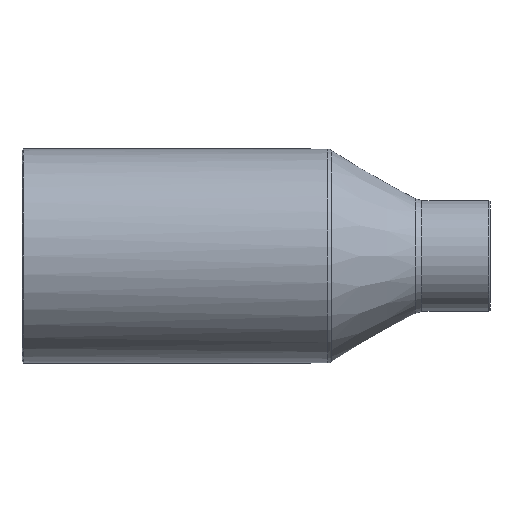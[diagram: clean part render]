
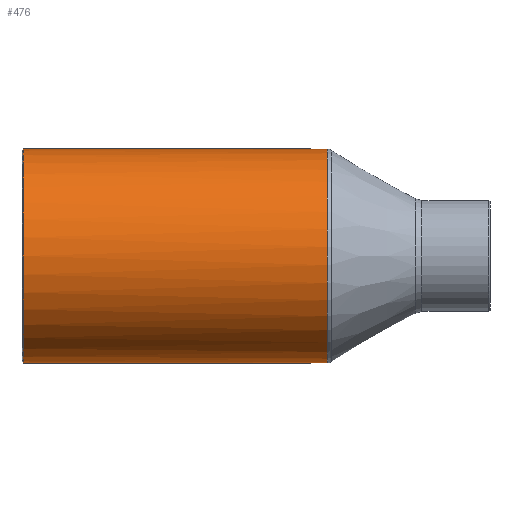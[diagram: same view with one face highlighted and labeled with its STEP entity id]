
A CAD part, front view. The second image highlights one B-rep face of the part: STEP entity #476.
In plain terms, the highlighted cylindrical face has radius 16.25 mm (diameter 32.5 mm), a full revolution.
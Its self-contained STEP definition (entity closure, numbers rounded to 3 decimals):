
#359=CARTESIAN_POINT('',(-33.,16.25,0.));
#360=VERTEX_POINT('',#359);
#361=CARTESIAN_POINT('',(-33.,0.0,0.0));
#362=DIRECTION('',(-1.0,0.0,0.0));
#363=DIRECTION('',(0.0,-1.0,0.0));
#364=AXIS2_PLACEMENT_3D('',#361,#362,#363);
#365=CIRCLE('',#364,16.25);
#366=EDGE_CURVE('',#360,#360,#365,.T.);
#391=CARTESIAN_POINT('',(2.3,0.0,0.0));
#392=DIRECTION('',(1.0,0.0,0.0));
#393=DIRECTION('',(0.0,1.0,0.0));
#394=AXIS2_PLACEMENT_3D('',#391,#392,#393);
#395=CYLINDRICAL_SURFACE('',#394,16.25);
#396=CARTESIAN_POINT('',(13.123,14.247,7.816));
#397=VERTEX_POINT('',#396);
#398=CARTESIAN_POINT('',(13.123,14.247,-7.816));
#399=VERTEX_POINT('',#398);
#400=CARTESIAN_POINT('',(13.123,0.0,0.0));
#401=DIRECTION('',(1.0,0.0,0.0));
#402=DIRECTION('',(0.0,-1.0,0.0));
#403=AXIS2_PLACEMENT_3D('',#400,#401,#402);
#404=CIRCLE('',#403,16.25);
#405=EDGE_CURVE('',#397,#399,#404,.T.);
#406=ORIENTED_EDGE('',*,*,#405,.F.);
#407=CARTESIAN_POINT('',(0.,9.295,13.329));
#408=VERTEX_POINT('',#407);
#409=CARTESIAN_POINT('',(0.,9.295,13.329));
#410=CARTESIAN_POINT('',(0.642,9.295,13.329));
#411=CARTESIAN_POINT('',(1.605,9.364,13.282));
#412=CARTESIAN_POINT('',(2.857,9.578,13.128));
#413=CARTESIAN_POINT('',(4.069,9.86,12.919));
#414=CARTESIAN_POINT('',(5.522,10.32,12.56));
#415=CARTESIAN_POINT('',(7.704,11.209,11.794));
#416=CARTESIAN_POINT('',(9.633,12.195,10.788));
#417=CARTESIAN_POINT('',(11.363,13.177,9.536));
#418=CARTESIAN_POINT('',(12.368,13.78,8.633));
#419=CARTESIAN_POINT('',(12.927,14.125,8.038));
#420=CARTESIAN_POINT('',(13.123,14.247,7.816));
#421=B_SPLINE_CURVE_WITH_KNOTS('',3,(#409,#410,#411,#412,#413,#414,#415,#416,#417,#418,#419,#420),.UNSPECIFIED.,.F.,.U.,(4,1,1,1,1,1,1,1,1,4),(-8.163,-8.017,-7.944,-7.872,-7.726,-7.58,-7.288,-7.143,-6.997,-6.914),.UNSPECIFIED.);
#422=EDGE_CURVE('',#408,#397,#421,.T.);
#423=ORIENTED_EDGE('',*,*,#422,.F.);
#424=CARTESIAN_POINT('',(13.123,14.247,-7.816));
#425=CARTESIAN_POINT('',(12.925,14.124,-8.041));
#426=CARTESIAN_POINT('',(12.48,13.848,-8.515));
#427=CARTESIAN_POINT('',(11.745,13.406,-9.197));
#428=CARTESIAN_POINT('',(10.926,12.928,-9.856));
#429=CARTESIAN_POINT('',(9.47,12.112,-10.874));
#430=CARTESIAN_POINT('',(7.846,11.283,-11.718));
#431=CARTESIAN_POINT('',(6.072,10.543,-12.37));
#432=CARTESIAN_POINT('',(4.57,9.999,-12.818));
#433=CARTESIAN_POINT('',(2.568,9.461,-13.215));
#434=CARTESIAN_POINT('',(0.428,9.253,-13.358));
#435=CARTESIAN_POINT('',(-1.29,9.336,-13.301));
#436=CARTESIAN_POINT('',(-2.55,9.511,-13.177));
#437=CARTESIAN_POINT('',(-3.778,9.786,-12.975));
#438=CARTESIAN_POINT('',(-5.336,10.251,-12.615));
#439=CARTESIAN_POINT('',(-7.164,10.975,-12.006));
#440=CARTESIAN_POINT('',(-8.831,11.786,-11.205));
#441=CARTESIAN_POINT('',(-10.054,12.439,-10.466));
#442=CARTESIAN_POINT('',(-11.219,13.092,-9.651));
#443=CARTESIAN_POINT('',(-12.286,13.728,-8.729));
#444=CARTESIAN_POINT('',(-13.236,14.316,-7.706));
#445=CARTESIAN_POINT('',(-14.246,14.955,-6.438));
#446=CARTESIAN_POINT('',(-15.138,15.539,-4.901));
#447=CARTESIAN_POINT('',(-15.854,16.017,-2.919));
#448=CARTESIAN_POINT('',(-16.217,16.262,-1.063));
#449=CARTESIAN_POINT('',(-16.217,16.261,0.711));
#450=CARTESIAN_POINT('',(-16.012,16.123,2.112));
#451=CARTESIAN_POINT('',(-15.679,15.9,3.477));
#452=CARTESIAN_POINT('',(-15.155,15.551,4.795));
#453=CARTESIAN_POINT('',(-14.47,15.103,6.021));
#454=CARTESIAN_POINT('',(-13.694,14.604,7.174));
#455=CARTESIAN_POINT('',(-12.665,13.957,8.369));
#456=CARTESIAN_POINT('',(-11.35,13.169,9.546));
#457=CARTESIAN_POINT('',(-10.058,12.436,10.48));
#458=CARTESIAN_POINT('',(-8.662,11.7,11.294));
#459=CARTESIAN_POINT('',(-7.144,10.98,11.991));
#460=CARTESIAN_POINT('',(-5.53,10.324,12.557));
#461=CARTESIAN_POINT('',(-3.783,9.769,12.99));
#462=CARTESIAN_POINT('',(-1.929,9.387,13.265));
#463=CARTESIAN_POINT('',(-0.643,9.295,13.329));
#464=CARTESIAN_POINT('',(0.,9.295,13.329));
#465=CARTESIAN_POINT('',(0.,9.295,13.329));
#466=CARTESIAN_POINT('',(0.,9.295,13.329));
#467=CARTESIAN_POINT('',(0.,9.295,13.329));
#468=B_SPLINE_CURVE_WITH_KNOTS('',3,(#424,#425,#426,#427,#428,#429,#430,#431,#432,#433,#434,#435,#436,#437,#438,#439,#440,#441,#442,#443,#444,#445,#446,#447,#448,#449,#450,#451,#452,#453,#454,#455,#456,#457,#458,#459,#460,#461,#462,#463,#464,#465,#466,#467),.UNSPECIFIED.,.F.,.U.,(4,1,1,1,1,1,1,1,1,1,1,1,1,1,1,1,1,1,1,1,1,1,1,1,1,1,1,1,1,1,1,1,1,1,1,1,1,1,3,4),(-5.331,-5.248,-5.151,-5.053,-4.956,-4.665,-4.567,-4.47,-4.276,-4.082,-3.984,-3.887,-3.79,-3.693,-3.498,-3.304,-3.207,-3.11,-2.915,-2.818,-2.721,-2.462,-2.332,-2.138,-1.944,-1.846,-1.749,-1.555,-1.458,-1.361,-1.166,-1.02,-0.875,-0.729,-0.583,-0.437,-0.292,-0.146,0.0,0.),.UNSPECIFIED.);
#469=EDGE_CURVE('',#399,#408,#468,.T.);
#470=ORIENTED_EDGE('',*,*,#469,.F.);
#471=EDGE_LOOP('',(#406,#423,#470));
#472=FACE_OUTER_BOUND('',#471,.T.);
#473=ORIENTED_EDGE('',*,*,#366,.F.);
#474=EDGE_LOOP('',(#473));
#475=FACE_BOUND('',#474,.T.);
#476=ADVANCED_FACE('',(#472,#475),#395,.T.);
